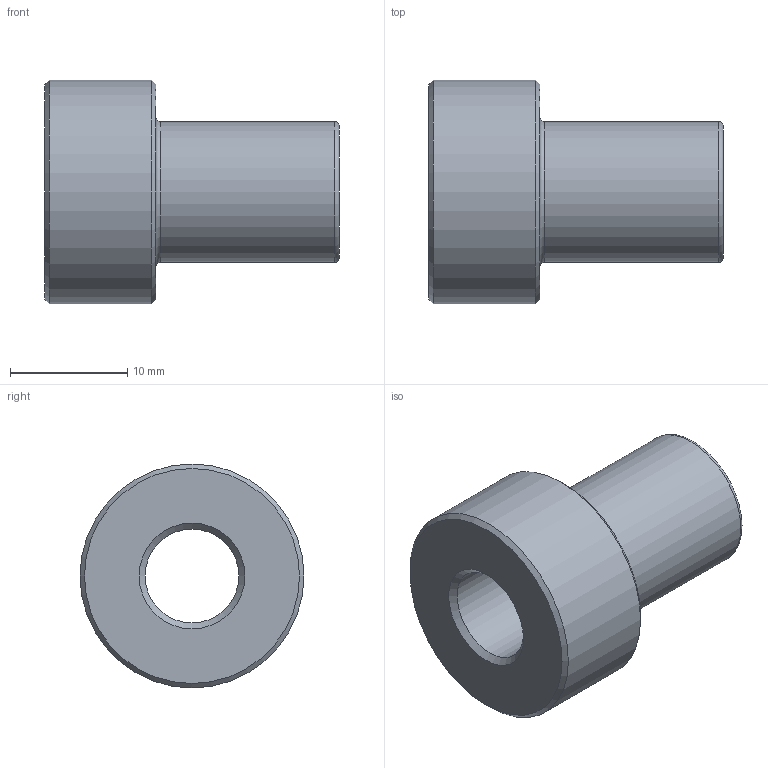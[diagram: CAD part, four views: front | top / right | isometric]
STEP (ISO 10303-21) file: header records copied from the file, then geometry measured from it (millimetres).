
FILE_DESCRIPTION( ( 'STEP AP214' ), '1' );
FILE_NAME( 'p:/temp/worker_29/temp/app_50_02019012316262245554424192d056f_000000_00_00_000000/format_0/MB3SS.stp', '2019-01-23T15:26:22', ( '' ), ( '' ), ' ', 'PARTsolutions', ' ' );
FILE_SCHEMA( ( 'AUTOMOTIVE_DESIGN { 1 0 10303 214 1 1 1 1 }' ) );
Length unit declared in the file: inch
Products named in the file (1): _MB3SS
Bounding box: 25.1 x 19.1 x 19.1 mm (x, y, z)
Volume: 3201.3 mm3; surface area: 2206.2 mm2
Topology: 1 solids, 1 shells, 12 faces, 21 edges, 12 vertices
Faces by surface type: cone 4, plane 3, cylinder 3, torus 2
Full cylindrical faces by diameter (mm): 8 x1, 11.99 x1, 19.1 x1
Entity records: 360 total; most frequent: DIRECTION 50, CARTESIAN_POINT 37, AXIS2_PLACEMENT_3D 25, EDGE_LOOP 24, ORIENTED_EDGE 24, FACE_OUTER_BOUND 17, STYLED_ITEM 12, PRESENTATION_STYLE_ASSIGNMENT 12
